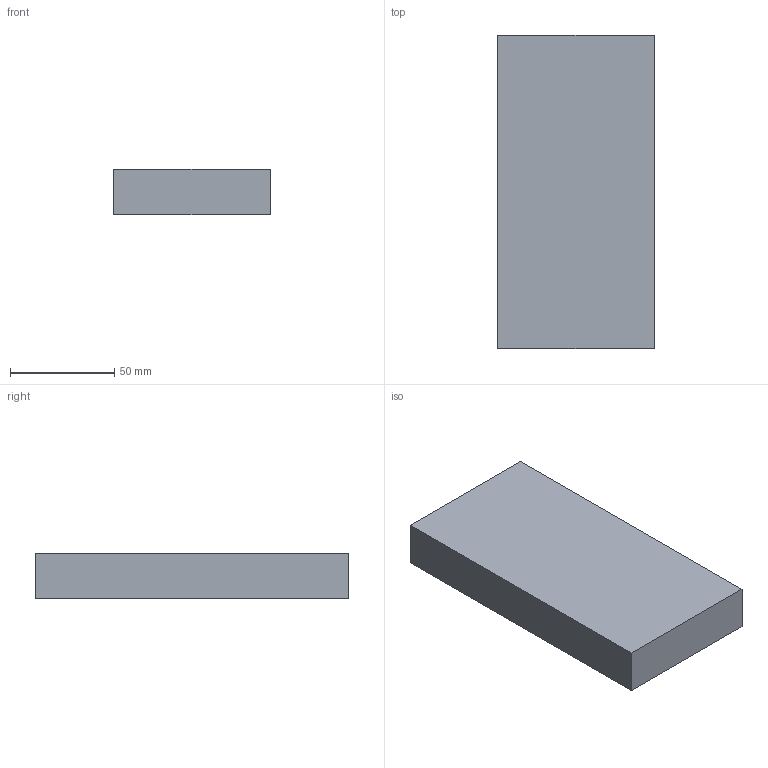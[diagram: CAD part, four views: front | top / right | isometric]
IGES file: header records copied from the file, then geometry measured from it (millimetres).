
Global section: file name: G_Ex_10_2; native system: AutoCAD 2016 - Español (Spanish),; preprocessor: Autodesk Translation Framework DWG producer (atf_dwg_producer); organization: unknown; date: 20200727.135701; units: millimetre
Bounding box: 75 x 150 x 22 mm (x, y, z)
Volume: 247500 mm3; surface area: 32400 mm2
Topology: 1 solids, 1 shells, 6 faces, 12 edges, 8 vertices
Faces by surface type: bspline 6
